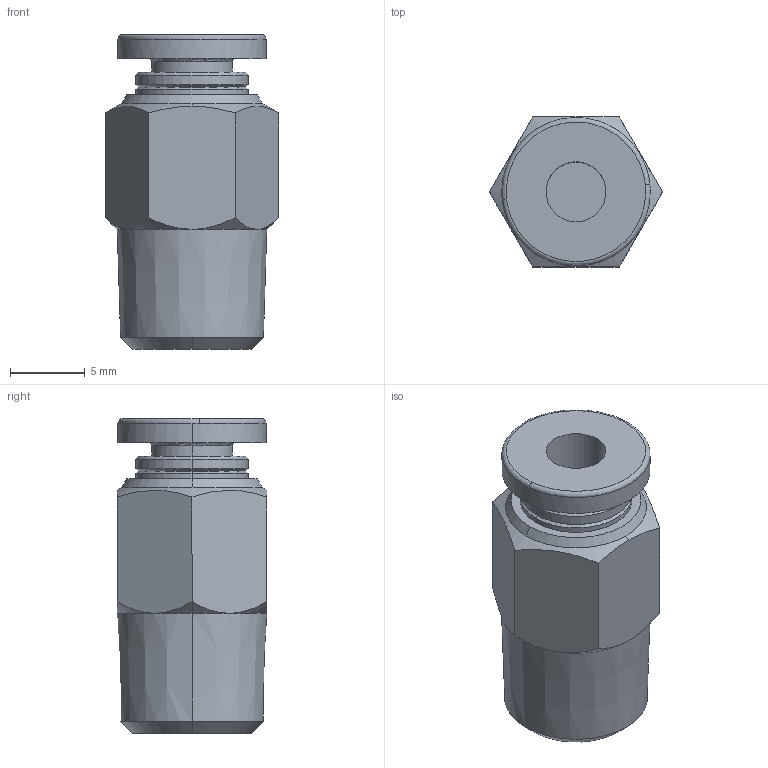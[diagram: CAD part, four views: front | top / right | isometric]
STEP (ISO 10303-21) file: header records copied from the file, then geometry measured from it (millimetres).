
FILE_DESCRIPTION (( 'STEP AP214' ), '1' );
FILE_NAME ('KQ2H04-01AS.STEP', '2023-03-06T10:22:12', ( 'Windows User' ), ( 'P R C' ), 'SwSTEP 2.0', 'SolidWorks 2019', '' );
FILE_SCHEMA (( 'AUTOMOTIVE_DESIGN' ));
Length unit declared in the file: millimetre
Products named in the file (1): KQ2H04-01AS
Bounding box: 11.55 x 10 x 21 mm (x, y, z)
Volume: 1366.9 mm3; surface area: 1073.3 mm2
Topology: 1 solids, 1 shells, 46 faces, 110 edges, 70 vertices
Faces by surface type: cone 20, plane 12, cylinder 10, bspline 4
Entity records: 1709 total; most frequent: CARTESIAN_POINT 621, DIRECTION 224, ORIENTED_EDGE 220, EDGE_CURVE 110, AXIS2_PLACEMENT_3D 94, VERTEX_POINT 70, CIRCLE 51, EDGE_LOOP 50
